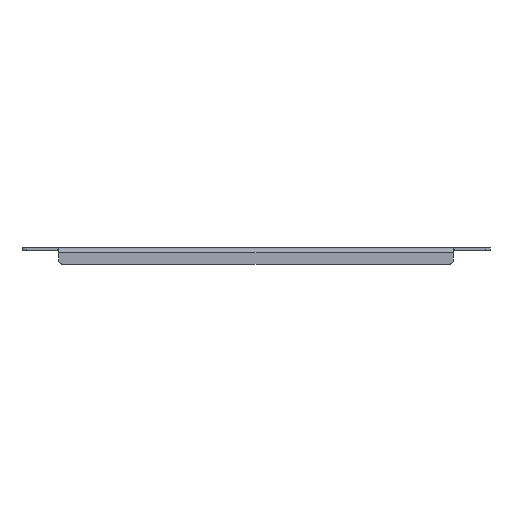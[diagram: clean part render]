
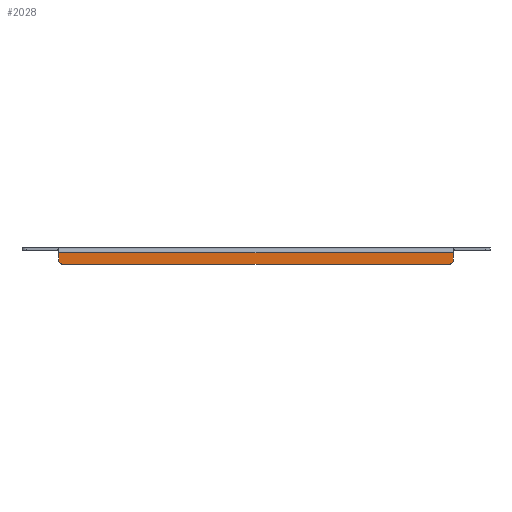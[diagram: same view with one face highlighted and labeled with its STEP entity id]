
A CAD part, front view. The second image highlights one B-rep face of the part: STEP entity #2028.
In plain terms, the highlighted planar face has unit normal (0, -1, 0).
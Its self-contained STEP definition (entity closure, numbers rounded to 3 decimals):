
#66 = AXIS2_PLACEMENT_3D ( 'NONE', #3450, #2648, #1438 ) ;
#116 = EDGE_CURVE ( 'NONE', #2076, #466, #2182, .T. ) ;
#221 = CARTESIAN_POINT ( 'NONE',  ( -237.5, -95., -15. ) ) ;
#299 = EDGE_CURVE ( 'NONE', #2516, #3125, #1761, .T. ) ;
#365 = CARTESIAN_POINT ( 'NONE',  ( 242.5, -95., -15. ) ) ;
#373 = CARTESIAN_POINT ( 'NONE',  ( -242.5, -95., -3. ) ) ;
#450 = DIRECTION ( 'NONE',  ( 0., 0., -1. ) ) ;
#466 = VERTEX_POINT ( 'NONE', #3004 ) ;
#480 = DIRECTION ( 'NONE',  ( -1., 0., 0. ) ) ;
#674 = CARTESIAN_POINT ( 'NONE',  ( 0., -95., -6. ) ) ;
#700 = LINE ( 'NONE', #373, #1533 ) ;
#787 = CARTESIAN_POINT ( 'NONE',  ( 242.5, -95., -20. ) ) ;
#872 = ORIENTED_EDGE ( 'NONE', *, *, #116, .T. ) ;
#910 = CARTESIAN_POINT ( 'NONE',  ( 242.5, -95., -6. ) ) ;
#1011 = AXIS2_PLACEMENT_3D ( 'NONE', #2704, #3299, #3001 ) ;
#1059 = LINE ( 'NONE', #1742, #2845 ) ;
#1118 = EDGE_CURVE ( 'NONE', #2824, #1961, #3618, .T. ) ;
#1137 = LINE ( 'NONE', #787, #3692 ) ;
#1337 = EDGE_LOOP ( 'NONE', ( #3200, #3639, #2680, #872, #3253, #2760 ) ) ;
#1438 = DIRECTION ( 'NONE',  ( 0., 0., -1. ) ) ;
#1533 = VECTOR ( 'NONE', #3653, 1000. ) ;
#1742 = CARTESIAN_POINT ( 'NONE',  ( -242.5, -95., -20. ) ) ;
#1761 = CIRCLE ( 'NONE', #66, 5. ) ;
#1961 = VERTEX_POINT ( 'NONE', #2957 ) ;
#2028 = ADVANCED_FACE ( 'NONE', ( #3612 ), #2423, .T. ) ;
#2076 = VERTEX_POINT ( 'NONE', #910 ) ;
#2165 = DIRECTION ( 'NONE',  ( -1., 0., 0. ) ) ;
#2182 = LINE ( 'NONE', #674, #2435 ) ;
#2314 = EDGE_CURVE ( 'NONE', #2076, #3125, #1137, .T. ) ;
#2423 = PLANE ( 'NONE',  #1011 ) ;
#2435 = VECTOR ( 'NONE', #2165, 1000. ) ;
#2509 = EDGE_CURVE ( 'NONE', #2824, #466, #700, .T. ) ;
#2516 = VERTEX_POINT ( 'NONE', #3682 ) ;
#2648 = DIRECTION ( 'NONE',  ( 0., -1., 0. ) ) ;
#2680 = ORIENTED_EDGE ( 'NONE', *, *, #2314, .F. ) ;
#2704 = CARTESIAN_POINT ( 'NONE',  ( 0., -95., 0. ) ) ;
#2760 = ORIENTED_EDGE ( 'NONE', *, *, #1118, .T. ) ;
#2824 = VERTEX_POINT ( 'NONE', #3150 ) ;
#2845 = VECTOR ( 'NONE', #480, 1000. ) ;
#2904 = EDGE_CURVE ( 'NONE', #2516, #1961, #1059, .T. ) ;
#2957 = CARTESIAN_POINT ( 'NONE',  ( -237.5, -95., -20. ) ) ;
#3001 = DIRECTION ( 'NONE',  ( 0., 0., -1. ) ) ;
#3004 = CARTESIAN_POINT ( 'NONE',  ( -242.5, -95., -6. ) ) ;
#3125 = VERTEX_POINT ( 'NONE', #365 ) ;
#3150 = CARTESIAN_POINT ( 'NONE',  ( -242.5, -95., -15. ) ) ;
#3197 = DIRECTION ( 'NONE',  ( 0., -1., 0. ) ) ;
#3200 = ORIENTED_EDGE ( 'NONE', *, *, #2904, .F. ) ;
#3253 = ORIENTED_EDGE ( 'NONE', *, *, #2509, .F. ) ;
#3299 = DIRECTION ( 'NONE',  ( 0., -1., 0. ) ) ;
#3375 = AXIS2_PLACEMENT_3D ( 'NONE', #221, #3197, #3786 ) ;
#3450 = CARTESIAN_POINT ( 'NONE',  ( 237.5, -95., -15. ) ) ;
#3612 = FACE_OUTER_BOUND ( 'NONE', #1337, .T. ) ;
#3618 = CIRCLE ( 'NONE', #3375, 5. ) ;
#3639 = ORIENTED_EDGE ( 'NONE', *, *, #299, .T. ) ;
#3653 = DIRECTION ( 'NONE',  ( 0., 0., 1. ) ) ;
#3682 = CARTESIAN_POINT ( 'NONE',  ( 237.5, -95., -20. ) ) ;
#3692 = VECTOR ( 'NONE', #450, 1000. ) ;
#3786 = DIRECTION ( 'NONE',  ( 0., 0., -1. ) ) ;
